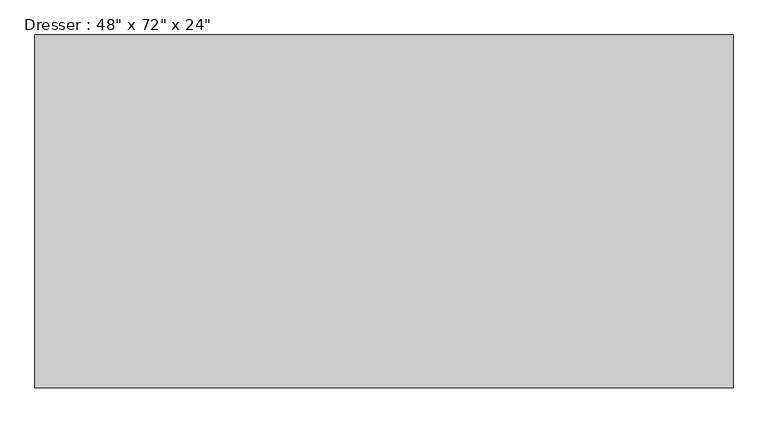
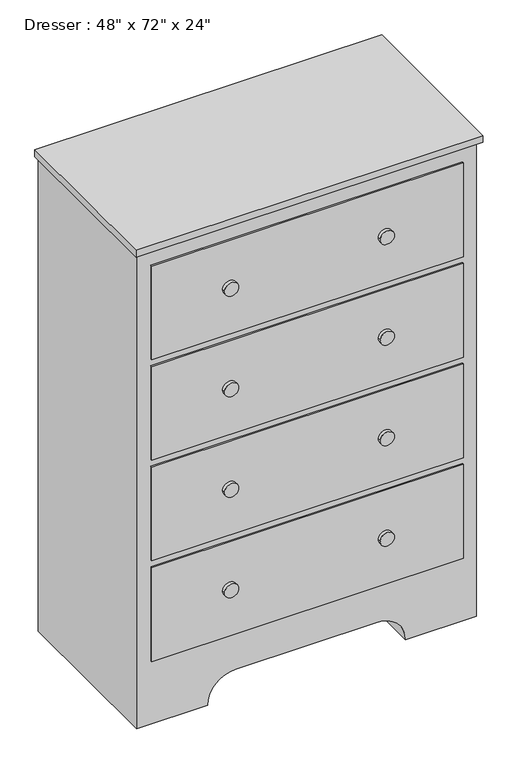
"""IFC4 building model written with IfcOpenShell, lengths in millimetres: furniture geometry."""

from ifc_helpers import new_model, si_unit, point, frame, frame_2d, origin, place, context, project, spatial, polyline, circle_curve, trimmed, segment, composite_curve, outline, extrude, source, transform, mapped, element, save


def furniture_9fa109b2(model_context):
    return source(origin(), model_context, "Body", "SweptSolid", [
        extrude(outline(polyline([(353.1067402, -58.3629541), (353.1067402, -687.0129541), (-891.4932598, -687.0129541), (-891.4932598, -58.3629541), (353.1067402, -58.3629541)])), frame((0.0, 0.0, 1803.4), z_axis=(0.0, 0.0, 1.0), x_axis=(1.0, 0.0, 0.0)), (0.0, 0.0, 1.0), 25.4),
        extrude(outline(composite_curve([segment(polyline([(0.0, 340.4067402), (1803.4, 340.4067402), (1803.4, -878.7932598), (0.0, -878.7932598), (0.0, -624.7932598)]), True, "CONTINUOUS"), segment(trimmed(circle_curve(frame_2d((0.0, -523.1932598)), 101.6), [point((0.0, -624.7932598))], [point((101.6, -523.1932598))], True, "CARTESIAN"), True, "CONTINUOUS"), segment(polyline([(101.6, -523.1932598), (101.6, -15.1932598)]), True, "CONTINUOUS"), segment(trimmed(circle_curve(frame_2d((0.0, -15.1932598)), 101.6), [point((101.6, -15.1932598))], [point((0.0, 86.4067402))], True, "CARTESIAN"), True, "CONTINUOUS"), segment(polyline([(0.0, 86.4067402), (0.0, 340.4067402)]), True, "CONTINUOUS")], self_intersect=False)), frame((0.0, -667.9629541, 0.0), z_axis=(0.0, 1.0, 0.0), x_axis=(0.0, 0.0, 1.0)), (0.0, 0.0, 1.0), 609.6),
        extrude(outline(composite_curve([segment(trimmed(circle_curve(frame_2d((1562.1, 10.2067402)), 25.4), [point((1562.1, -15.1932598))], [point((1562.1, 35.6067402))], False, "CARTESIAN"), True, "CONTINUOUS"), segment(trimmed(circle_curve(frame_2d((1562.1, 10.2067402)), 25.4), [point((1562.1, 35.6067402))], [point((1562.1, -15.1932598))], False, "CARTESIAN"), True, "CONTINUOUS")], self_intersect=False)), frame((0.0, -687.0129541, 0.0), z_axis=(0.0, 1.0, 0.0), x_axis=(0.0, 0.0, 1.0)), (0.0, 0.0, 1.0), 12.7),
        extrude(outline(composite_curve([segment(trimmed(circle_curve(frame_2d((1181.1, 10.2067402)), 25.4), [point((1181.1, -15.1932598))], [point((1181.1, 35.6067402))], False, "CARTESIAN"), True, "CONTINUOUS"), segment(trimmed(circle_curve(frame_2d((1181.1, 10.2067402)), 25.4), [point((1181.1, 35.6067402))], [point((1181.1, -15.1932598))], False, "CARTESIAN"), True, "CONTINUOUS")], self_intersect=False)), frame((0.0, -687.0129541, 0.0), z_axis=(0.0, 1.0, 0.0), x_axis=(0.0, 0.0, 1.0)), (0.0, 0.0, 1.0), 12.7),
        extrude(outline(composite_curve([segment(trimmed(circle_curve(frame_2d((800.1, 10.2067402)), 25.4), [point((800.1, -15.1932598))], [point((800.1, 35.6067402))], False, "CARTESIAN"), True, "CONTINUOUS"), segment(trimmed(circle_curve(frame_2d((800.1, 10.2067402)), 25.4), [point((800.1, 35.6067402))], [point((800.1, -15.1932598))], False, "CARTESIAN"), True, "CONTINUOUS")], self_intersect=False)), frame((0.0, -687.0129541, 0.0), z_axis=(0.0, 1.0, 0.0), x_axis=(0.0, 0.0, 1.0)), (0.0, 0.0, 1.0), 12.7),
        extrude(outline(composite_curve([segment(trimmed(circle_curve(frame_2d((419.1, 10.2067402)), 25.4), [point((419.1, -15.1932598))], [point((419.1, 35.6067402))], False, "CARTESIAN"), True, "CONTINUOUS"), segment(trimmed(circle_curve(frame_2d((419.1, 10.2067402)), 25.4), [point((419.1, 35.6067402))], [point((419.1, -15.1932598))], False, "CARTESIAN"), True, "CONTINUOUS")], self_intersect=False)), frame((0.0, -687.0129541, 0.0), z_axis=(0.0, 1.0, 0.0), x_axis=(0.0, 0.0, 1.0)), (0.0, 0.0, 1.0), 12.7),
        extrude(outline(composite_curve([segment(trimmed(circle_curve(frame_2d((419.1, -548.5932598)), 25.4), [point((419.1, -573.9932598))], [point((419.1, -523.1932598))], False, "CARTESIAN"), True, "CONTINUOUS"), segment(trimmed(circle_curve(frame_2d((419.1, -548.5932598)), 25.4), [point((419.1, -523.1932598))], [point((419.1, -573.9932598))], False, "CARTESIAN"), True, "CONTINUOUS")], self_intersect=False)), frame((0.0, -687.0129541, 0.0), z_axis=(0.0, 1.0, 0.0), x_axis=(0.0, 0.0, 1.0)), (0.0, 0.0, 1.0), 12.7),
        extrude(outline(composite_curve([segment(trimmed(circle_curve(frame_2d((800.1, -548.5932598)), 25.4), [point((800.1, -573.9932598))], [point((800.1, -523.1932598))], False, "CARTESIAN"), True, "CONTINUOUS"), segment(trimmed(circle_curve(frame_2d((800.1, -548.5932598)), 25.4), [point((800.1, -523.1932598))], [point((800.1, -573.9932598))], False, "CARTESIAN"), True, "CONTINUOUS")], self_intersect=False)), frame((0.0, -687.0129541, 0.0), z_axis=(0.0, 1.0, 0.0), x_axis=(0.0, 0.0, 1.0)), (0.0, 0.0, 1.0), 12.7),
        extrude(outline(composite_curve([segment(trimmed(circle_curve(frame_2d((1181.1, -548.5932598)), 25.4), [point((1181.1, -573.9932598))], [point((1181.1, -523.1932598))], False, "CARTESIAN"), True, "CONTINUOUS"), segment(trimmed(circle_curve(frame_2d((1181.1, -548.5932598)), 25.4), [point((1181.1, -523.1932598))], [point((1181.1, -573.9932598))], False, "CARTESIAN"), True, "CONTINUOUS")], self_intersect=False)), frame((0.0, -687.0129541, 0.0), z_axis=(0.0, 1.0, 0.0), x_axis=(0.0, 0.0, 1.0)), (0.0, 0.0, 1.0), 12.7),
        extrude(outline(composite_curve([segment(trimmed(circle_curve(frame_2d((1562.1, -548.5932598)), 25.4), [point((1562.1, -573.9932598))], [point((1562.1, -523.1932598))], False, "CARTESIAN"), True, "CONTINUOUS"), segment(trimmed(circle_curve(frame_2d((1562.1, -548.5932598)), 25.4), [point((1562.1, -523.1932598))], [point((1562.1, -573.9932598))], False, "CARTESIAN"), True, "CONTINUOUS")], self_intersect=False)), frame((0.0, -687.0129541, 0.0), z_axis=(0.0, 1.0, 0.0), x_axis=(0.0, 0.0, 1.0)), (0.0, 0.0, 1.0), 12.7),
        extrude(outline(polyline([(289.6067402, -674.3129541), (-827.9932598, -674.3129541), (-827.9932598, -667.9629541), (289.6067402, -667.9629541), (289.6067402, -674.3129541)])), frame((0.0, 0.0, 1384.3), z_axis=(0.0, 0.0, 1.0), x_axis=(1.0, 0.0, 0.0)), (0.0, 0.0, 1.0), 355.6),
        extrude(outline(polyline([(289.6067402, -674.3129541), (-827.9932598, -674.3129541), (-827.9932598, -667.9629541), (289.6067402, -667.9629541), (289.6067402, -674.3129541)])), frame((0.0, 0.0, 1003.3), z_axis=(0.0, 0.0, 1.0), x_axis=(1.0, 0.0, 0.0)), (0.0, 0.0, 1.0), 355.6),
        extrude(outline(polyline([(289.6067402, -674.3129541), (-827.9932598, -674.3129541), (-827.9932598, -667.9629541), (289.6067402, -667.9629541), (289.6067402, -674.3129541)])), frame((0.0, 0.0, 622.3), z_axis=(0.0, 0.0, 1.0), x_axis=(1.0, 0.0, 0.0)), (0.0, 0.0, 1.0), 355.6),
        extrude(outline(polyline([(289.6067402, -674.3129541), (-827.9932598, -674.3129541), (-827.9932598, -667.9629541), (289.6067402, -667.9629541), (289.6067402, -674.3129541)])), frame((0.0, 0.0, 241.3), z_axis=(0.0, 0.0, 1.0), x_axis=(1.0, 0.0, 0.0)), (0.0, 0.0, 1.0), 355.6),
    ])


if __name__ == "__main__":
    model = new_model("IFC4")
    model_context = context("Model", 3, world=origin())
    ifc_project = project(units=[si_unit("LENGTHUNIT", "METRE", prefix="MILLI")], contexts=[model_context])
    site = spatial("IfcSite", under=ifc_project)
    building = spatial("IfcBuilding", under=site)
    placement = place(None, origin())
    furniture_shape = furniture_9fa109b2(model_context)
    element("IfcFurniture", 1, ObjectType="Dresser : 48\" x 72\" x 24\"", at=placement, inside=building, context=model_context, shape_type="MappedRepresentation", body=[
        mapped(furniture_shape, transform((0.0, 0.0, 0.0), x_axis=(1.0, 0.0, 0.0), y_axis=(0.0, 1.0, 0.0), z_axis=(0.0, 0.0, 1.0))),
    ])
    save(model, "model.ifc")
